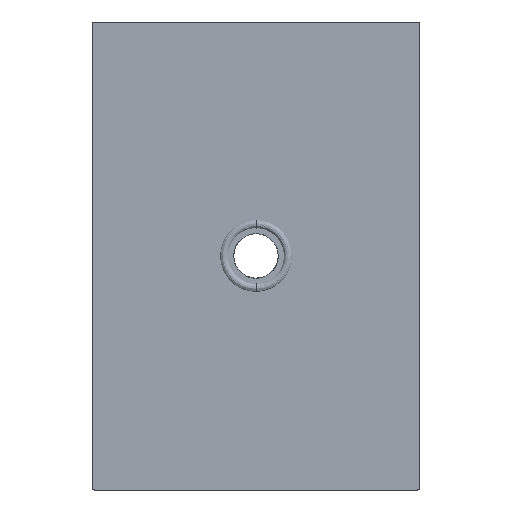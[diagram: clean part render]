
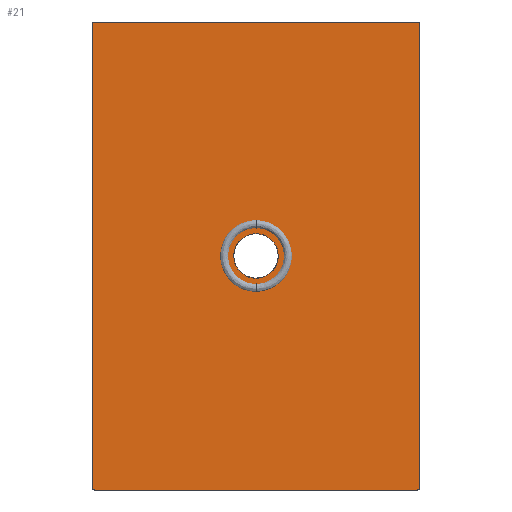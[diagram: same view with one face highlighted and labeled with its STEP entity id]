
A CAD part, front view. The second image highlights one B-rep face of the part: STEP entity #21.
In plain terms, the highlighted planar face has unit normal (0, -1, 0).
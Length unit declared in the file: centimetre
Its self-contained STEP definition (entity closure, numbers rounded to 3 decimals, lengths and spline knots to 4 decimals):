
#21=ADVANCED_FACE('',(#65,#58),#602,.T.);
#58=FACE_BOUND('',#109,.T.);
#65=FACE_OUTER_BOUND('',#108,.T.);
#108=EDGE_LOOP('',(#179,#180,#181,#182,#183,#184,#185,#186));
#109=EDGE_LOOP('',(#187,#188));
#179=ORIENTED_EDGE('',*,*,#359,.F.);
#180=ORIENTED_EDGE('',*,*,#331,.F.);
#181=ORIENTED_EDGE('',*,*,#367,.F.);
#182=ORIENTED_EDGE('',*,*,#330,.F.);
#183=ORIENTED_EDGE('',*,*,#371,.F.);
#184=ORIENTED_EDGE('',*,*,#333,.F.);
#185=ORIENTED_EDGE('',*,*,#363,.F.);
#186=ORIENTED_EDGE('',*,*,#332,.F.);
#187=ORIENTED_EDGE('',*,*,#326,.T.);
#188=ORIENTED_EDGE('',*,*,#325,.T.);
#325=EDGE_CURVE('',#515,#516,#437,.T.);
#326=EDGE_CURVE('',#516,#515,#438,.T.);
#330=EDGE_CURVE('',#524,#519,#418,.T.);
#331=EDGE_CURVE('',#530,#525,#419,.T.);
#332=EDGE_CURVE('',#534,#535,#420,.T.);
#333=EDGE_CURVE('',#542,#537,#421,.T.);
#359=EDGE_CURVE('',#525,#534,#459,.T.);
#363=EDGE_CURVE('',#535,#542,#461,.T.);
#367=EDGE_CURVE('',#519,#530,#463,.T.);
#371=EDGE_CURVE('',#537,#524,#465,.T.);
#418=B_SPLINE_CURVE_WITH_KNOTS('',1,(#1971,#1972),.UNSPECIFIED.,.F.,.F.,
(2,2),(0.,1.),.UNSPECIFIED.);
#419=B_SPLINE_CURVE_WITH_KNOTS('',1,(#1973,#1974),.UNSPECIFIED.,.F.,.F.,
(2,2),(0.,1.),.UNSPECIFIED.);
#420=B_SPLINE_CURVE_WITH_KNOTS('',1,(#1975,#1976),.UNSPECIFIED.,.F.,.F.,
(2,2),(0.,1.),.UNSPECIFIED.);
#421=B_SPLINE_CURVE_WITH_KNOTS('',1,(#1977,#1978),.UNSPECIFIED.,.F.,.F.,
(2,2),(0.,1.),.UNSPECIFIED.);
#437=(
BOUNDED_CURVE()
B_SPLINE_CURVE(2,(#1949,#1950,#1951,#1952,#1953),.UNSPECIFIED.,.F.,.F.)
B_SPLINE_CURVE_WITH_KNOTS((3,2,3),(-0.1492,-0.0746,
0.),.UNSPECIFIED.)
CURVE()
GEOMETRIC_REPRESENTATION_ITEM()
RATIONAL_B_SPLINE_CURVE((1.,0.707,1.,0.707,1.))
REPRESENTATION_ITEM('')
);
#438=(
BOUNDED_CURVE()
B_SPLINE_CURVE(2,(#1954,#1955,#1956,#1957,#1958),.UNSPECIFIED.,.F.,.F.)
B_SPLINE_CURVE_WITH_KNOTS((3,2,3),(-0.2985,-0.2238,
-0.1492),.UNSPECIFIED.)
CURVE()
GEOMETRIC_REPRESENTATION_ITEM()
RATIONAL_B_SPLINE_CURVE((1.,0.707,1.,0.707,1.))
REPRESENTATION_ITEM('')
);
#459=(
BOUNDED_CURVE()
B_SPLINE_CURVE(2,(#2419,#2420,#2421),.UNSPECIFIED.,.F.,.F.)
B_SPLINE_CURVE_WITH_KNOTS((3,3),(5.4983,7.0681),
 .UNSPECIFIED.)
CURVE()
GEOMETRIC_REPRESENTATION_ITEM()
RATIONAL_B_SPLINE_CURVE((1.,0.707,1.))
REPRESENTATION_ITEM('')
);
#461=(
BOUNDED_CURVE()
B_SPLINE_CURVE(2,(#2429,#2430,#2431),.UNSPECIFIED.,.F.,.F.)
B_SPLINE_CURVE_WITH_KNOTS((3,3),(5.4983,7.0681),
 .UNSPECIFIED.)
CURVE()
GEOMETRIC_REPRESENTATION_ITEM()
RATIONAL_B_SPLINE_CURVE((1.,0.707,1.))
REPRESENTATION_ITEM('')
);
#463=(
BOUNDED_CURVE()
B_SPLINE_CURVE(2,(#2439,#2440,#2441),.UNSPECIFIED.,.F.,.F.)
B_SPLINE_CURVE_WITH_KNOTS((3,3),(5.4983,7.0681),
 .UNSPECIFIED.)
CURVE()
GEOMETRIC_REPRESENTATION_ITEM()
RATIONAL_B_SPLINE_CURVE((1.,0.707,1.))
REPRESENTATION_ITEM('')
);
#465=(
BOUNDED_CURVE()
B_SPLINE_CURVE(2,(#2449,#2450,#2451),.UNSPECIFIED.,.F.,.F.)
B_SPLINE_CURVE_WITH_KNOTS((3,3),(5.4983,7.0681),
 .UNSPECIFIED.)
CURVE()
GEOMETRIC_REPRESENTATION_ITEM()
RATIONAL_B_SPLINE_CURVE((1.,0.707,1.))
REPRESENTATION_ITEM('')
);
#515=VERTEX_POINT('',#1903);
#516=VERTEX_POINT('',#1904);
#519=VERTEX_POINT('',#1907);
#524=VERTEX_POINT('',#1912);
#525=VERTEX_POINT('',#1913);
#530=VERTEX_POINT('',#1918);
#534=VERTEX_POINT('',#1922);
#535=VERTEX_POINT('',#1923);
#537=VERTEX_POINT('',#1925);
#542=VERTEX_POINT('',#1930);
#602=PLANE('',#628);
#628=AXIS2_PLACEMENT_3D('',#656,#637,$);
#637=DIRECTION('',(0.,-1.,0.));
#656=CARTESIAN_POINT('',(-0.36,0.,-0.51));
#1903=CARTESIAN_POINT('',(0.,0.,0.0475));
#1904=CARTESIAN_POINT('',(0.,0.,-0.0475));
#1907=CARTESIAN_POINT('',(0.35,0.,-0.495));
#1912=CARTESIAN_POINT('',(0.35,0.,0.495));
#1913=CARTESIAN_POINT('',(-0.345,0.,-0.5));
#1918=CARTESIAN_POINT('',(0.345,0.,-0.5));
#1922=CARTESIAN_POINT('',(-0.35,0.,-0.495));
#1923=CARTESIAN_POINT('',(-0.35,0.,0.495));
#1925=CARTESIAN_POINT('',(0.345,0.,0.5));
#1930=CARTESIAN_POINT('',(-0.345,0.,0.5));
#1949=CARTESIAN_POINT('',(0.,0.,0.0475));
#1950=CARTESIAN_POINT('',(0.0475,0.,0.0475));
#1951=CARTESIAN_POINT('',(0.0475,0.,0.));
#1952=CARTESIAN_POINT('',(0.0475,0.,-0.0475));
#1953=CARTESIAN_POINT('',(0.,0.,-0.0475));
#1954=CARTESIAN_POINT('',(0.,0.,-0.0475));
#1955=CARTESIAN_POINT('',(-0.0475,0.,-0.0475));
#1956=CARTESIAN_POINT('',(-0.0475,0.,0.));
#1957=CARTESIAN_POINT('',(-0.0475,0.,0.0475));
#1958=CARTESIAN_POINT('',(0.,0.,0.0475));
#1971=CARTESIAN_POINT('',(0.35,0.,0.495));
#1972=CARTESIAN_POINT('',(0.35,0.,-0.495));
#1973=CARTESIAN_POINT('',(0.345,0.,-0.5));
#1974=CARTESIAN_POINT('',(-0.345,0.,-0.5));
#1975=CARTESIAN_POINT('',(-0.35,0.,-0.495));
#1976=CARTESIAN_POINT('',(-0.35,0.,0.495));
#1977=CARTESIAN_POINT('',(-0.345,0.,0.5));
#1978=CARTESIAN_POINT('',(0.345,0.,0.5));
#2419=CARTESIAN_POINT('',(-0.345,0.,-0.5));
#2420=CARTESIAN_POINT('',(-0.35,0.0002,-0.5));
#2421=CARTESIAN_POINT('',(-0.35,0.,-0.495));
#2429=CARTESIAN_POINT('',(-0.35,0.,0.495));
#2430=CARTESIAN_POINT('',(-0.35,0.0002,0.5));
#2431=CARTESIAN_POINT('',(-0.345,0.,0.5));
#2439=CARTESIAN_POINT('',(0.35,0.,-0.495));
#2440=CARTESIAN_POINT('',(0.35,0.0002,-0.5));
#2441=CARTESIAN_POINT('',(0.345,0.,-0.5));
#2449=CARTESIAN_POINT('',(0.345,0.,0.5));
#2450=CARTESIAN_POINT('',(0.35,0.0002,0.5));
#2451=CARTESIAN_POINT('',(0.35,0.,0.495));
